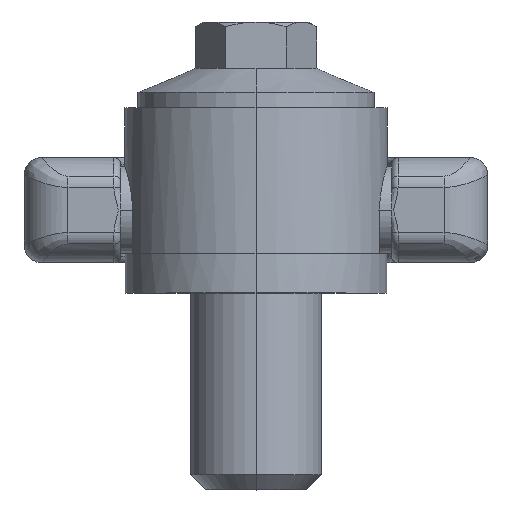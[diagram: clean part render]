
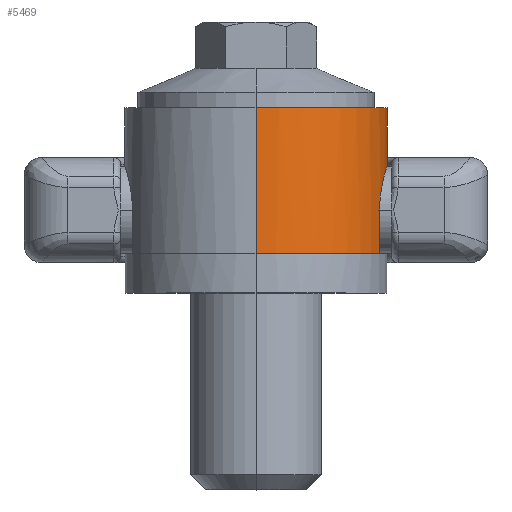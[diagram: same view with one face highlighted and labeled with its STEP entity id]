
A CAD part, top view. The second image highlights one B-rep face of the part: STEP entity #5469.
In plain terms, the highlighted cylindrical face has radius 30 mm (diameter 60 mm), a partial arc.
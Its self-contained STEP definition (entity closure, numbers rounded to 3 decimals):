
#2055 = DIRECTION ( 'NONE',  ( 0., -1., 0. ) ) ;
#2056 = VECTOR ( 'NONE', #2055, 1000. ) ;
#2057 = CARTESIAN_POINT ( 'NONE',  ( 0., 62., 30. ) ) ;
#2058 = LINE ( 'NONE', #2057, #2056 ) ;
#2059 = CARTESIAN_POINT ( 'NONE',  ( 0., 9., 30. ) ) ;
#2115 = DIRECTION ( 'NONE',  ( 0., 0., -1. ) ) ;
#2116 = DIRECTION ( 'NONE',  ( 0., -1., 0. ) ) ;
#2117 = CARTESIAN_POINT ( 'NONE',  ( 0., 62., 0. ) ) ;
#2118 = AXIS2_PLACEMENT_3D ( 'NONE', #2117, #2116, #2115 ) ;
#2119 = CYLINDRICAL_SURFACE ( 'NONE', #2118, 30. ) ;
#2121 = FACE_OUTER_BOUND ( 'NONE', #5470, .T. ) ;
#2126 = CARTESIAN_POINT ( 'NONE',  ( 0., 42.4, -30. ) ) ;
#2127 = CARTESIAN_POINT ( 'NONE',  ( 0., 42.4, 30. ) ) ;
#2128 = DIRECTION ( 'NONE',  ( 0., 0., 1. ) ) ;
#2129 = DIRECTION ( 'NONE',  ( 0., 1., 0. ) ) ;
#2130 = CARTESIAN_POINT ( 'NONE',  ( 0., 42.4, 0. ) ) ;
#2131 = AXIS2_PLACEMENT_3D ( 'NONE', #2130, #2129, #2128 ) ;
#2132 = CIRCLE ( 'NONE', #2131, 30. ) ;
#2210 = LINE ( 'NONE', #2271, #2270 ) ;
#2211 = CARTESIAN_POINT ( 'NONE',  ( 0., 9., -30. ) ) ;
#2212 = DIRECTION ( 'NONE',  ( 0., 0., -1. ) ) ;
#2227 = DIRECTION ( 'NONE',  ( 0., -1., 0. ) ) ;
#2228 = CARTESIAN_POINT ( 'NONE',  ( 0., 9., 0. ) ) ;
#2229 = AXIS2_PLACEMENT_3D ( 'NONE', #2228, #2227, #2212 ) ;
#2230 = CIRCLE ( 'NONE', #2229, 30. ) ;
#2232 = CARTESIAN_POINT ( 'NONE',  ( 28.284, 9., -10. ) ) ;
#2233 = DIRECTION ( 'NONE',  ( 0., -1., 0. ) ) ;
#2234 = VECTOR ( 'NONE', #2233, 1000. ) ;
#2235 = CARTESIAN_POINT ( 'NONE',  ( 28.284, 62., -10. ) ) ;
#2236 = LINE ( 'NONE', #2235, #2234 ) ;
#2268 = CARTESIAN_POINT ( 'NONE',  ( 28.284, 9., 10. ) ) ;
#2269 = DIRECTION ( 'NONE',  ( 0., -1., 0. ) ) ;
#2270 = VECTOR ( 'NONE', #2269, 1000. ) ;
#2271 = CARTESIAN_POINT ( 'NONE',  ( 0., 62., -30. ) ) ;
#2355 = CARTESIAN_POINT ( 'NONE',  ( 28.284, 19., 10. ) ) ;
#2356 = DIRECTION ( 'NONE',  ( 0., 0., -1. ) ) ;
#2357 = DIRECTION ( 'NONE',  ( 0., -1., 0. ) ) ;
#2358 = CARTESIAN_POINT ( 'NONE',  ( 0., 9., 0. ) ) ;
#2359 = AXIS2_PLACEMENT_3D ( 'NONE', #2358, #2357, #2356 ) ;
#2360 = CIRCLE ( 'NONE', #2359, 30. ) ;
#2414 = CARTESIAN_POINT ( 'NONE',  ( 28.284, 19., -10. ) ) ;
#2415 = DIRECTION ( 'NONE',  ( 0., 1., 0. ) ) ;
#2416 = VECTOR ( 'NONE', #2415, 1000. ) ;
#2417 = CARTESIAN_POINT ( 'NONE',  ( 28.284, 62., 10. ) ) ;
#2418 = LINE ( 'NONE', #2417, #2416 ) ;
#2442 = CARTESIAN_POINT ( 'NONE',  ( 28.313, 20.324, -9.917 ) ) ;
#2443 = CARTESIAN_POINT ( 'NONE',  ( 28.331, 20.654, -9.868 ) ) ;
#2444 = CARTESIAN_POINT ( 'NONE',  ( 28.398, 21.624, -9.672 ) ) ;
#2445 = CARTESIAN_POINT ( 'NONE',  ( 28.464, 22.247, -9.48 ) ) ;
#2446 = CARTESIAN_POINT ( 'NONE',  ( 28.626, 23.45, -8.979 ) ) ;
#2447 = CARTESIAN_POINT ( 'NONE',  ( 28.724, 24.034, -8.665 ) ) ;
#2448 = CARTESIAN_POINT ( 'NONE',  ( 28.933, 25.113, -7.94 ) ) ;
#2449 = CARTESIAN_POINT ( 'NONE',  ( 29.044, 25.613, -7.53 ) ) ;
#2450 = CARTESIAN_POINT ( 'NONE',  ( 29.211, 26.303, -6.839 ) ) ;
#2451 = CARTESIAN_POINT ( 'NONE',  ( 29.267, 26.524, -6.595 ) ) ;
#2452 = CARTESIAN_POINT ( 'NONE',  ( 29.376, 26.937, -6.091 ) ) ;
#2453 = CARTESIAN_POINT ( 'NONE',  ( 29.429, 27.131, -5.83 ) ) ;
#2454 = CARTESIAN_POINT ( 'NONE',  ( 29.531, 27.492, -5.291 ) ) ;
#2455 = CARTESIAN_POINT ( 'NONE',  ( 29.58, 27.659, -5.013 ) ) ;
#2456 = CARTESIAN_POINT ( 'NONE',  ( 29.671, 27.967, -4.438 ) ) ;
#2457 = CARTESIAN_POINT ( 'NONE',  ( 29.715, 28.109, -4.14 ) ) ;
#2458 = CARTESIAN_POINT ( 'NONE',  ( 29.832, 28.488, -3.227 ) ) ;
#2459 = CARTESIAN_POINT ( 'NONE',  ( 29.894, 28.678, -2.601 ) ) ;
#2460 = CARTESIAN_POINT ( 'NONE',  ( 29.978, 28.935, -1.315 ) ) ;
#2461 = CARTESIAN_POINT ( 'NONE',  ( 30., 29.001, -0.647 ) ) ;
#2462 = CARTESIAN_POINT ( 'NONE',  ( 30., 28.999, 0.668 ) ) ;
#2463 = CARTESIAN_POINT ( 'NONE',  ( 29.978, 28.934, 1.32 ) ) ;
#2464 = CARTESIAN_POINT ( 'NONE',  ( 29.914, 28.74, 2.29 ) ) ;
#2465 = CARTESIAN_POINT ( 'NONE',  ( 29.888, 28.658, 2.613 ) ) ;
#2466 = CARTESIAN_POINT ( 'NONE',  ( 29.826, 28.466, 3.241 ) ) ;
#2467 = CARTESIAN_POINT ( 'NONE',  ( 29.791, 28.355, 3.548 ) ) ;
#2468 = CARTESIAN_POINT ( 'NONE',  ( 29.674, 27.979, 4.449 ) ) ;
#2469 = CARTESIAN_POINT ( 'NONE',  ( 29.582, 27.672, 5.023 ) ) ;
#2470 = CARTESIAN_POINT ( 'NONE',  ( 29.376, 26.94, 6.114 ) ) ;
#2471 = CARTESIAN_POINT ( 'NONE',  ( 29.266, 26.528, 6.614 ) ) ;
#2472 = CARTESIAN_POINT ( 'NONE',  ( 29.099, 25.841, 7.301 ) ) ;
#2473 = CARTESIAN_POINT ( 'NONE',  ( 29.043, 25.601, 7.519 ) ) ;
#2474 = CARTESIAN_POINT ( 'NONE',  ( 28.933, 25.097, 7.933 ) ) ;
#2475 = CARTESIAN_POINT ( 'NONE',  ( 28.878, 24.833, 8.129 ) ) ;
#2476 = CARTESIAN_POINT ( 'NONE',  ( 28.722, 24.021, 8.673 ) ) ;
#2477 = CARTESIAN_POINT ( 'NONE',  ( 28.626, 23.449, 8.98 ) ) ;
#2478 = CARTESIAN_POINT ( 'NONE',  ( 28.504, 22.543, 9.357 ) ) ;
#2479 = CARTESIAN_POINT ( 'NONE',  ( 28.466, 22.231, 9.469 ) ) ;
#2480 = CARTESIAN_POINT ( 'NONE',  ( 28.402, 21.6, 9.662 ) ) ;
#2481 = CARTESIAN_POINT ( 'NONE',  ( 28.374, 21.282, 9.742 ) ) ;
#2482 = CARTESIAN_POINT ( 'NONE',  ( 28.308, 20.319, 9.934 ) ) ;
#2483 = CARTESIAN_POINT ( 'NONE',  ( 28.284, 19.666, 10. ) ) ;
#2484 = CARTESIAN_POINT ( 'NONE',  ( 28.284, 19., 10. ) ) ;
#2485 = B_SPLINE_CURVE_WITH_KNOTS ( 'NONE', 3,
 ( #2484, #2483, #2482, #2481, #2480, #2479, #2478, #2477, #2476, #2475, #2474, #2473, #2472, #2471, #2470, #2469, #2468, #2467, #2466, #2465, #2464, #2463, #2462, #2461, #2460, #2459, #2458, #2457, #2456, #2455, #2454, #2453, #2452, #2451, #2450, #2449, #2448, #2447, #2446, #2445, #2444, #2443, #2442, #2518, #2517, #2516 ),
 .UNSPECIFIED., .F., .F.,
 ( 4, 2, 2, 2, 2, 2, 2, 2, 2, 2, 2, 2, 2, 2, 2, 2, 2, 2, 2, 2, 2, 2, 4 ),
 ( 0., 0.002, 0.003, 0.004, 0.006, 0.007, 0.008, 0.01, 0.012, 0.013, 0.014, 0.016, 0.018, 0.02, 0.021, 0.022, 0.023, 0.024, 0.026, 0.028, 0.03, 0.03, 0.031 ),
 .UNSPECIFIED. ) ;
#2516 = CARTESIAN_POINT ( 'NONE',  ( 28.284, 19., -10. ) ) ;
#2517 = CARTESIAN_POINT ( 'NONE',  ( 28.284, 19.333, -10. ) ) ;
#2518 = CARTESIAN_POINT ( 'NONE',  ( 28.29, 19.664, -9.983 ) ) ;
#5434 = ORIENTED_EDGE ( 'NONE', *, *, #5578, .F. ) ;
#5436 = VERTEX_POINT ( 'NONE', #2059 ) ;
#5437 = EDGE_CURVE ( 'NONE', #5463, #5436, #2058, .T. ) ;
#5462 = EDGE_CURVE ( 'NONE', #5463, #5464, #2132, .T. ) ;
#5463 = VERTEX_POINT ( 'NONE', #2127 ) ;
#5464 = VERTEX_POINT ( 'NONE', #2126 ) ;
#5465 = ORIENTED_EDGE ( 'NONE', *, *, #5437, .T. ) ;
#5469 = ADVANCED_FACE ( 'NONE', ( #2121 ), #2119, .T. ) ;
#5470 = EDGE_LOOP ( 'NONE', ( #5471, #5465, #5434, #5604, #5606, #5609, #5525, #5529 ) ) ;
#5471 = ORIENTED_EDGE ( 'NONE', *, *, #5462, .F. ) ;
#5523 = EDGE_CURVE ( 'NONE', #5607, #5524, #2236, .T. ) ;
#5524 = VERTEX_POINT ( 'NONE', #2232 ) ;
#5525 = ORIENTED_EDGE ( 'NONE', *, *, #5527, .F. ) ;
#5527 = EDGE_CURVE ( 'NONE', #5528, #5524, #2230, .T. ) ;
#5528 = VERTEX_POINT ( 'NONE', #2211 ) ;
#5529 = ORIENTED_EDGE ( 'NONE', *, *, #5530, .F. ) ;
#5530 = EDGE_CURVE ( 'NONE', #5464, #5528, #2210, .T. ) ;
#5532 = VERTEX_POINT ( 'NONE', #2268 ) ;
#5578 = EDGE_CURVE ( 'NONE', #5532, #5436, #2360, .T. ) ;
#5579 = VERTEX_POINT ( 'NONE', #2355 ) ;
#5604 = ORIENTED_EDGE ( 'NONE', *, *, #5605, .T. ) ;
#5605 = EDGE_CURVE ( 'NONE', #5532, #5579, #2418, .T. ) ;
#5606 = ORIENTED_EDGE ( 'NONE', *, *, #5608, .T. ) ;
#5607 = VERTEX_POINT ( 'NONE', #2414 ) ;
#5608 = EDGE_CURVE ( 'NONE', #5579, #5607, #2485, .T. ) ;
#5609 = ORIENTED_EDGE ( 'NONE', *, *, #5523, .T. ) ;
